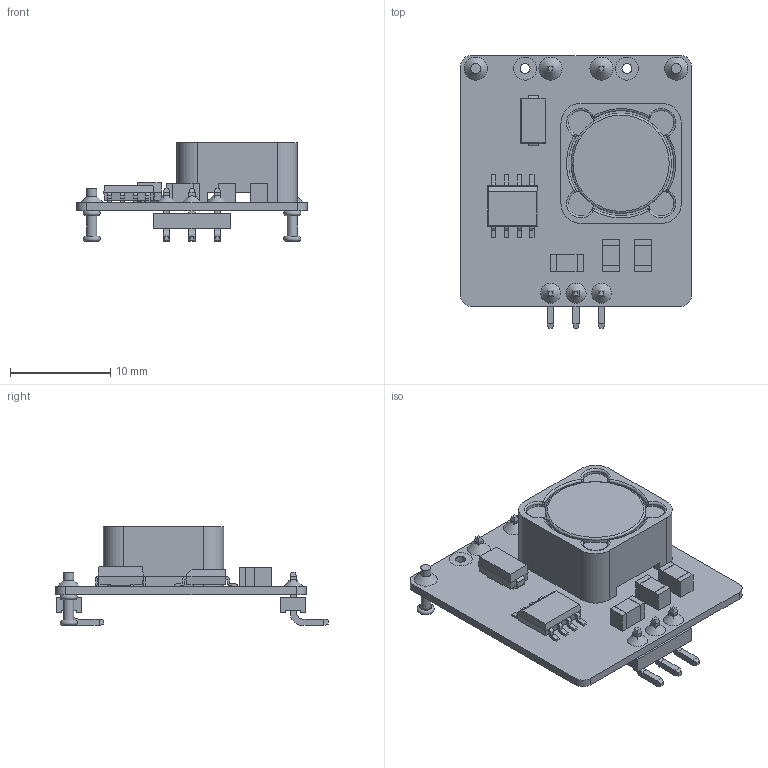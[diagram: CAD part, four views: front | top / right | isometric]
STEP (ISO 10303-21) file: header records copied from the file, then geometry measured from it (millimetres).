
FILE_DESCRIPTION(('FreeCAD Model'),'2;1');
FILE_NAME('X:/Application Engineering/1 Additional Information/1 CAD Files/1 Files up to date/1 Innoline/R-78T-1.0_AL_3D_20170601.STP', '2017-06-01T14:25:11',('Author'),(''), 'Open CASCADE STEP processor 6.8','FreeCAD','Unknown');
FILE_SCHEMA(('AUTOMOTIVE_DESIGN_CC2 { 1 2 10303 214 -1 1 5 4 }'));
Length unit declared in the file: millimetre
Products named in the file (28): R-78T-1.0_AL_ASM024; R-78T-1.0_AL_ASM025; R-78T-1.0_AL_ASM023; R-78T-1.0_AL_ASM021; R-78T-1.0_AL_ASM022; R-78T-1.0_AL_ASM020; R-78T-1.0_AL_ASM019; R-78T-1.0_AL_ASM018; R-78T-1.0_AL_ASM016; R-78T-1.0_AL_ASM017; R-78T-1.0_AL_ASM014; R-78T-1.0_AL_ASM015; R-78T-1.0_AL_ASM013; R-78T-1.0_AL_ASM011; R-78T-1.0_AL_ASM012; R-78T-1.0_AL_ASM010; R-78T-1.0_AL_ASM009; R-78T-1.0_AL_ASM007; R-78T-1.0_AL_ASM008; R-78T-1.0_AL_ASM006; R-78T-1.0_AL_Pin2(GND); R-78T-1.0_AL_Pin1(L+Vin);Pin3(R=+Vout); R-78T-1.0_AL_ASM004; R-78T-1.0_AL_ASM005; R-78T-1.0_AL_ASM003; R-78T-1.0_AL_ASM002; R-78T-1.0_AL_ASM001; R-78T-1.0_AL_PCB
Bounding box: 23 x 27.2 x 9.87 mm (x, y, z)
Volume: 1348.2 mm3; surface area: 2687.5 mm2
Topology: 28 solids, 28 shells, 467 faces, 1127 edges, 728 vertices
Faces by surface type: plane 339, cylinder 100, torus 13, sphere 8, cone 7
Full cylindrical faces by diameter (mm): 0.64 x2, 1 x13, 1.1 x2, 10 x1
Entity records: 41509 total; most frequent: CARTESIAN_POINT 17379, DIRECTION 3883, LINE 2325, VECTOR 2325, ORIENTED_EDGE 2254, PCURVE 2254, DEFINITIONAL_REPRESENTATION 2254, EDGE_CURVE 1127
